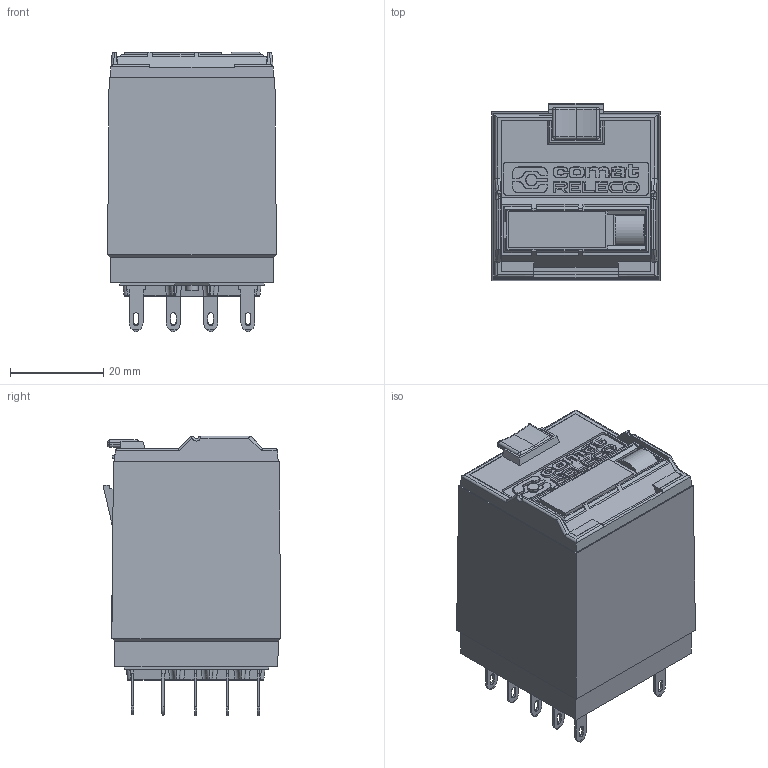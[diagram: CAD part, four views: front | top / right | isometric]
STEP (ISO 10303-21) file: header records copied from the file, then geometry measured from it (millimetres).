
FILE_DESCRIPTION (( 'STEP AP214' ), '1' );
FILE_NAME ('R4.STEP', '2024-03-27T12:01:13', ( '' ), ( '' ), 'SwSTEP 2.0', 'SolidWorks 2022', '' );
FILE_SCHEMA (( 'AUTOMOTIVE_DESIGN' ));
Length unit declared in the file: millimetre
Products named in the file (1): R4
Bounding box: 36.21 x 38.06 x 60 mm (x, y, z)
Volume: 61795.2 mm3; surface area: 11804.1 mm2
Topology: 1 solids, 1 shells, 1012 faces, 2663 edges, 1686 vertices
Faces by surface type: plane 538, cylinder 265, bspline 191, torus 8, sphere 6, cone 4
Entity records: 35220 total; most frequent: CARTESIAN_POINT 12088, ORIENTED_EDGE 5314, DIRECTION 4068, EDGE_CURVE 2657, VECTOR 1752, LINE 1752, VERTEX_POINT 1686, AXIS2_PLACEMENT_3D 1158
